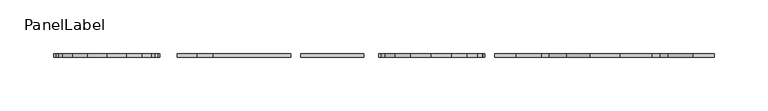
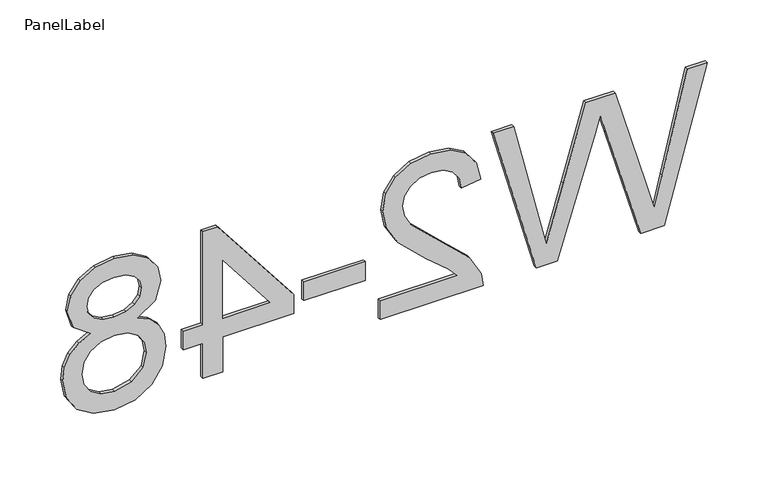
"""IFC4 building model written with IfcOpenShell, lengths in millimetres: fastener geometry, PanelLabel : Miranda."""

from ifc_helpers import new_model, si_unit, frame, origin, place, context, project, spatial, polyline, outline, extrude, source, transform, mapped, element, save


def panellabel_26702ed9(model_context):
    return source(origin(), model_context, "Body", "SweptSolid", [
        extrude(outline(polyline([(1310.9113766, 268.5683654), (1460.9667612, 309.4892308), (1460.9667612, 290.1461538), (1362.3463766, 266.4069231), (1331.9030112, 259.08), (1358.8294535, 251.2401923), (1460.9667612, 221.4928846), (1460.9667612, 193.6139423), (1386.9282035, 171.9995192), (1331.9030112, 155.9169231), (1361.4671458, 148.8098077), (1460.9667612, 124.8507692), (1460.9667612, 105.5076923), (1310.9113766, 146.4651923), (1310.9113766, 166.5043269), (1426.6767612, 202.4795192), (1442.8326266, 207.4984615), (1423.3796458, 213.1401923), (1310.9113766, 245.9281731), (1310.9113766, 268.5683654)])), frame((0.0, 85.725, 0.0), z_axis=(0.0, 1.0, 0.0), x_axis=(0.0, 0.0, 1.0)), (0.0, 0.0, 1.0), 3.175),
        extrude(outline(polyline([(1329.6682997, -2.3446154), (1310.9113766, -2.3446154), (1310.9113766, 96.1292308), (1323.8433958, 94.1143269), (1343.7543093, 82.7209615), (1365.4969535, 59.2381731), (1396.7462804, 26.8531731), (1407.5168573, 20.7809856), (1417.9943573, 18.7569231), (1427.3865569, 20.6665024), (1435.1943093, 26.3952404), (1440.4559559, 35.2012861), (1442.2098381, 46.3427885), (1440.4971698, 58.0429688), (1435.359165, 67.1329327), (1427.1988045, 72.9990505), (1416.4190689, 75.0276923), (1418.7636843, 93.7846154), (1436.9069775, 89.2373438), (1450.1595497, 79.4055288), (1458.2649583, 64.8020553), (1460.9667612, 45.9398077), (1457.9627227, 26.9401803), (1448.9506073, 12.3641827), (1435.4873862, 3.0910457), (1419.1300304, 0.0), (1401.3439247, 3.33375), (1382.9533477, 14.4157212), (1357.254165, 41.2872115), (1339.211617, 62.865), (1329.6682997, 71.3275962), (1329.6682997, -2.3446154)])), frame((0.0, 85.725, 0.0), z_axis=(0.0, 1.0, 0.0), x_axis=(0.0, 0.0, 1.0)), (0.0, 0.0, 1.0), 3.175),
        extrude(outline(polyline([(-75.0276923, 88.9), (-16.4123077, 88.9), (-16.4123077, 85.725), (-75.0276923, 85.725), (-75.0276923, 88.9)])), frame((0.0, 0.0, 1355.4590689), z_axis=(0.0, 0.0, 1.0), x_axis=(1.0, 0.0, 0.0)), (0.0, 0.0, 1.0), 18.7569231),
        extrude(outline(polyline([(1310.9113766, -152.4), (1346.0806073, -152.4), (1346.0806073, -84.4061538), (1364.8375304, -84.4061538), (1458.6221458, -157.0892308), (1458.6221458, -171.1569231), (1364.8375304, -171.1569231), (1364.8375304, -189.9138462), (1346.0806073, -189.9138462), (1346.0806073, -171.1569231), (1310.9113766, -171.1569231), (1310.9113766, -152.4)]), holes=[polyline([(1364.8375304, -152.4), (1422.793492, -152.4), (1364.8375304, -107.4859615), (1364.8375304, -152.4)])]), frame((0.0, 85.725, 0.0), z_axis=(0.0, 1.0, 0.0), x_axis=(0.0, 0.0, 1.0)), (0.0, 0.0, 1.0), 3.175),
        extrude(outline(polyline([(1393.5590689, -233.6555769), (1405.2088766, -216.5655288), (1423.3430112, -211.0153846), (1438.006016, -214.0377404), (1450.122915, -223.1048077), (1458.2557997, -237.199976), (1460.9667612, -255.3066346), (1458.1916891, -273.5231971), (1449.8664727, -287.8015385), (1437.557242, -297.0334615), (1422.8301266, -300.1107692), (1405.1539247, -294.6338942), (1393.5590689, -278.0200962), (1387.6105232, -289.5645793), (1378.8502708, -297.9676442), (1367.6996097, -303.0919111), (1354.5798381, -304.8), (1336.6471939, -301.4112981), (1321.828492, -291.2451923), (1311.8821939, -275.5472596), (1308.5667612, -255.5630769), (1311.8959319, -235.5788942), (1321.8834439, -219.8809615), (1336.8441049, -209.7148558), (1355.0927227, -206.3261538), (1368.7207997, -208.1029327), (1379.930992, -213.4332692), (1388.3386362, -222.0424038), (1393.5590689, -233.6555769)]), holes=[polyline([(1422.793492, -229.7723077), (1414.6056554, -231.4346034), (1408.0663766, -236.4214904), (1403.7801266, -244.5864303), (1402.3513766, -255.7828846), (1403.7709679, -266.7183173), (1408.029742, -274.7596154), (1414.3492131, -279.7052885), (1421.9508958, -281.3538462), (1429.8410761, -279.6503365), (1436.366617, -274.5398077), (1440.7490328, -266.3886058), (1442.2098381, -255.5630769), (1440.7810881, -244.6688582), (1436.4948381, -236.5313942), (1430.2120016, -231.4620793), (1422.793492, -229.7723077)]), polyline([(1355.7521458, -225.0830769), (1341.6295016, -228.2153365), (1331.060415, -239.2973077), (1327.3236843, -255.7096154), (1329.2882155, -268.4767788), (1335.1818093, -278.0567308), (1344.1069174, -284.0464904), (1355.165992, -286.0430769), (1366.4128189, -283.9823798), (1375.5348381, -277.8002885), (1381.5795497, -268.0005288), (1383.5944535, -255.0868269), (1381.6070256, -242.4982572), (1375.644742, -233.0144712), (1366.6967372, -227.0659255), (1355.7521458, -225.0830769)])]), frame((0.0, 85.725, 0.0), z_axis=(0.0, 1.0, 0.0), x_axis=(0.0, 0.0, 1.0)), (0.0, 0.0, 1.0), 3.175),
    ])


if __name__ == "__main__":
    model = new_model("IFC4")
    model_context = context("Model", 3, world=origin())
    ifc_project = project(units=[si_unit("LENGTHUNIT", "METRE", prefix="MILLI")], contexts=[model_context])
    site = spatial("IfcSite", under=ifc_project)
    building = spatial("IfcBuilding", under=site)
    placement = place(None, origin())
    panellabel_shape = panellabel_26702ed9(model_context)
    element("IfcFastener", 1, ObjectType="PanelLabel : Miranda", at=placement, inside=building, context=model_context, shape_type="MappedRepresentation", body=[
        mapped(panellabel_shape, transform((0.0, 0.0, 0.0), x_axis=(1.0, 0.0, 0.0), y_axis=(0.0, 1.0, 0.0), z_axis=(0.0, 0.0, 1.0))),
    ])
    save(model, "model.ifc")
